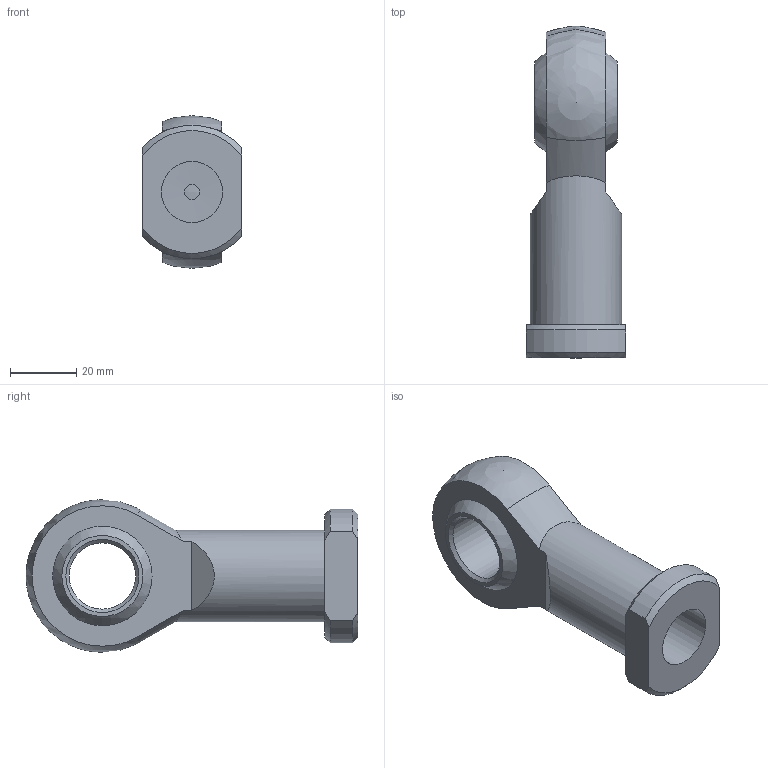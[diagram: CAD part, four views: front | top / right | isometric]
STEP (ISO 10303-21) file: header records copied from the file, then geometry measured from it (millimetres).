
FILE_DESCRIPTION(/* description */ ('Unknown'),/* implementation_level */ '2;1');
FILE_NAME(/* name */ 'WA80_WA100_J',/* time_stamp */ '2026-07-17T17:02:08+08:00',/* author */ ('Unknown'),/* organization */ ('Unknown'),/* preprocessor_version */ 'ST-DEVELOPER v16.7',/* originating_system */ 'DEX',/* authorisation */ $);
FILE_SCHEMA (('CONFIG_CONTROL_DESIGN'));
Length unit declared in the file: millimetre
Products named in the file (1): WA80_WA100_J
Bounding box: 30 x 100 x 46 mm (x, y, z)
Volume: 50776.1 mm3; surface area: 15436.4 mm2
Topology: 1 solids, 1 shells, 29 faces, 66 edges, 44 vertices
Faces by surface type: plane 10, cylinder 8, cone 7, sphere 4
Full cylindrical faces by diameter (mm): 4.5 x1, 18.376 x1, 20 x1, 27.5 x1
Entity records: 798 total; most frequent: CARTESIAN_POINT 158, DIRECTION 132, ORIENTED_EDGE 110, AXIS2_PLACEMENT_3D 57, EDGE_CURVE 55, EDGE_LOOP 44, FACE_BOUND 44, VERTEX_POINT 41
